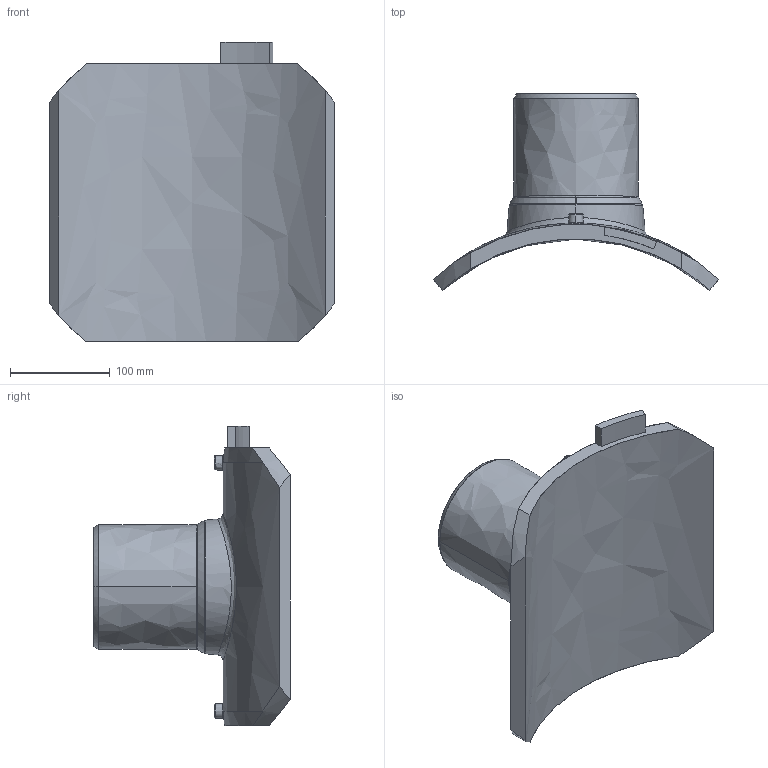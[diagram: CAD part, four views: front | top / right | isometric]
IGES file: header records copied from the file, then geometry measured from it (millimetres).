
Start section:  PTC IGES file: sa-uni_d400_125_01.igs
Global section: file name: sa-uni_d400_125_01.igs; native system: Pro/ENGINEER by Parametric Technology Corporation; preprocessor: 2011490; author: MikulicP; organization: Unknown; date: 20170203.130315; units: millimetre
Bounding box: 287 x 197.39 x 301 mm (x, y, z)
Surface area: 286526.3 mm2 (no closed solid volume)
Topology: 0 solids, 0 shells, 202 faces, 1000 edges, 1000 vertices
Faces by surface type: bspline 202
